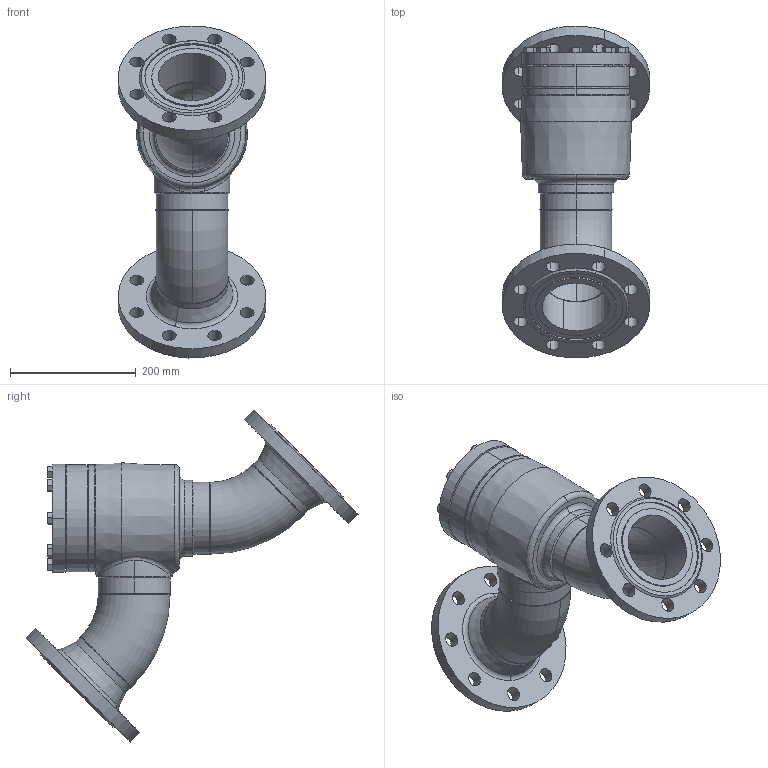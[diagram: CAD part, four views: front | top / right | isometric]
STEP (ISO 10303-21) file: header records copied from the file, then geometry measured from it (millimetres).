
FILE_DESCRIPTION (( 'STEP AP214' ), '1' );
FILE_NAME ('SS52320D19-DN100_DIN-FL-N_PS40.STEP', '2007-01-08T09:50:41', ( 'Herr Grams' ), ( 'AWP GmbH' ), 'SwSTEP 2.0', 'SolidWorks 2002296', '' );
FILE_SCHEMA (( 'AUTOMOTIVE_DESIGN' ));
Length unit declared in the file: millimetre
Products named in the file (16): SS52320D19-DN100_DIN-FL-N_PS40; Gehäuse-kpl16320-DN100_DIN_PS40_Standard; Gehäuse-kpl16300-DN100_R1_Standard; bead-DN100-3_Standard; bead-DN100-2_Standard; Gehäuse-kpl16400-DN100_R1_Standard; bead-DN100-1_Standard; Kopfstück16300-DN100_Standard; Gehäuse16400-DN100_Standard; Rohrbogen 45°_Rohrbogen-DN100-45°; bead-DN100-6_Standard; bead-DN100-7_Standard; Flansch-DIN-Nut_PS40_DIN-Flansch-DN100_PS40-Nut; SS52300E19_Deck+Schr-DN100_Standard; Deckel52300E19-DN100_Standard; Sechskantschraube-DIN933_M12x 35
Assembly tree (24 placements, depth 5):
  SS52320D19-DN100_DIN-FL-N_PS40
    Gehäuse-kpl16320-DN100_DIN_PS40_Standard
      Flansch-DIN-Nut_PS40_DIN-Flansch-DN100_PS40-Nut  x2
      bead-DN100-7_Standard
      Gehäuse-kpl16300-DN100_R1_Standard
        bead-DN100-3_Standard
        Rohrbogen 45°_Rohrbogen-DN100-45°  x2
        Gehäuse-kpl16400-DN100_R1_Standard
          bead-DN100-1_Standard
          Kopfstück16300-DN100_Standard
          Gehäuse16400-DN100_Standard
        bead-DN100-2_Standard
      bead-DN100-6_Standard
    SS52300E19_Deck+Schr-DN100_Standard
      Sechskantschraube-DIN933_M12x 35  x8
      Deckel52300E19-DN100_Standard
Bounding box: 234.78 x 528.11 x 528.11 mm (x, y, z)
Volume: 4222713 mm3; surface area: 819098.6 mm2
Topology: 20 solids, 20 shells, 397 faces, 894 edges, 541 vertices
Faces by surface type: cone 132, cylinder 113, plane 110, bspline 26, torus 16
Entity records: 19285 total; most frequent: CARTESIAN_POINT 14397, DIRECTION 883, ORIENTED_EDGE 828, EDGE_CURVE 414, AXIS2_PLACEMENT_3D 395, VERTEX_POINT 259, EDGE_LOOP 231, CIRCLE 212
